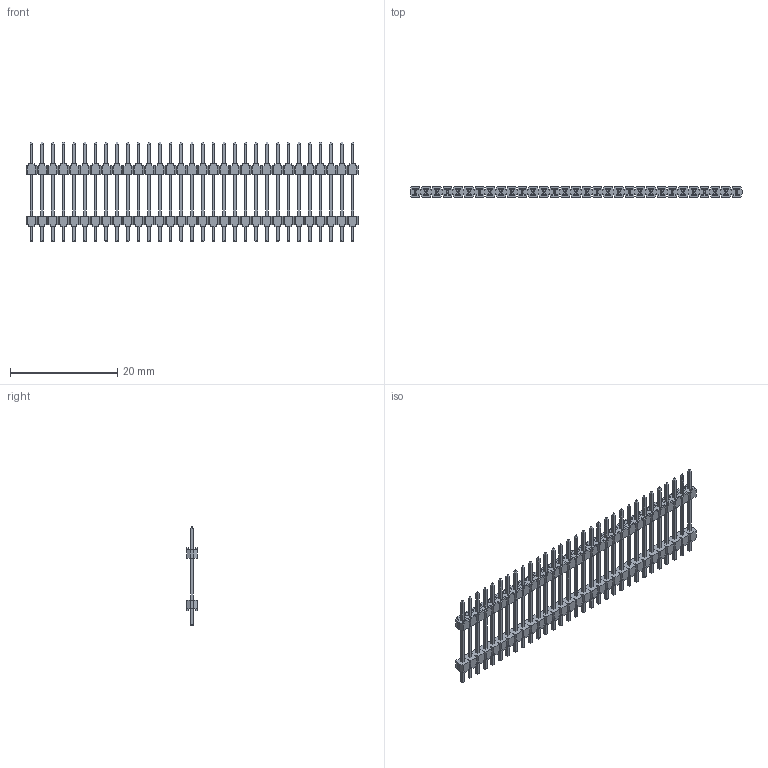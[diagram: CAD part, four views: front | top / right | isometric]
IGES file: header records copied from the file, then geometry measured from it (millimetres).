
Global section: file name: N:\GOLF_VI_2mm_UGII\9514XX_901XX06_AR\951431-9012206-AR.igs; native system: NX V3.0; preprocessor: UGS NX IGES V4.0; date: 20070314.115338; units: millimetre
Bounding box: 62 x 2 x 18.6 mm (x, y, z)
Surface area: 2086.6 mm2 (no closed solid volume)
Topology: 0 solids, 0 shells, 1558 faces, 8457 edges, 8457 vertices
Faces by surface type: bspline 1558
